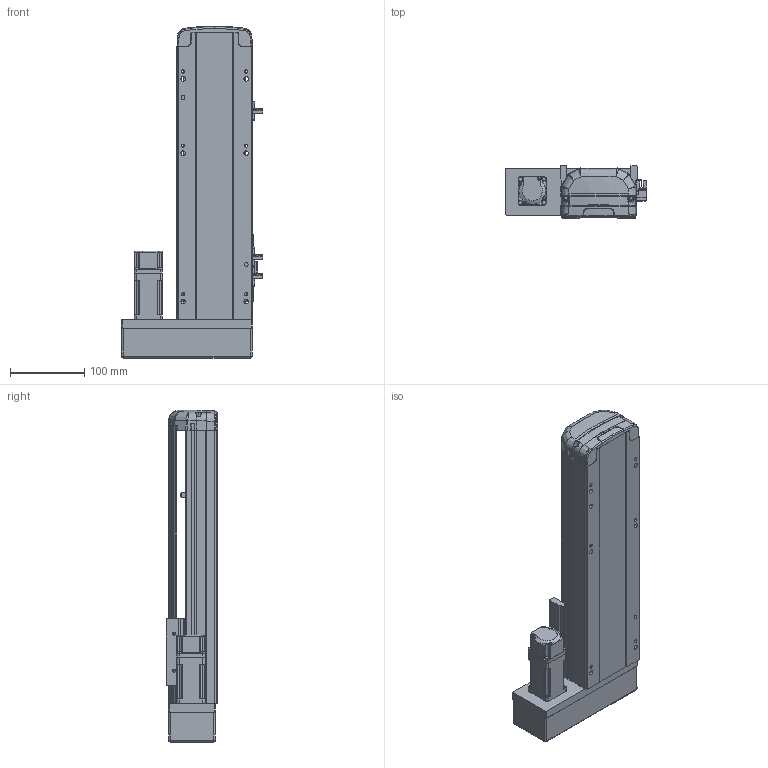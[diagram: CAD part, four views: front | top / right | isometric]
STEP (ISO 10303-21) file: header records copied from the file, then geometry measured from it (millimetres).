
FILE_DESCRIPTION (( 'STEP AP214' ), '1' );
FILE_NAME ('RTH10-XX-200-L-M10-C4.STEP', '2025-10-25T05:32:35', ( 'Microsoft' ), ( 'Microsoft' ), 'SwSTEP 2.0', 'SolidWorks 2018', '' );
FILE_SCHEMA (( 'AUTOMOTIVE_DESIGN' ));
Length unit declared in the file: millimetre
Products named in the file (10): N_RTH13-L-012覜茼え俋离^RTH10-XX-XX-L-M10-C4; N_RTH12-GY-001P^RTH10-XX-XX-L-M10-C4; N_RTH12-GY-004-賑釱^RTH10-XX-XX-L-M10-C4; N_RTH12-L-018-裔赽^RTH10-XX-XX-L-M10-C4; N_RTH12-M-011P-臏倰第菁釱^RTH10-XX-XX-L-M10-C4; N_OMRON EE-SX672 传感器^RTH10-XX-XX-L-M10-C4; N_RTH12-L-008萇儂啣^RTH10-XX-XX-L-M10-C4; RTH10-XX-200-L-M10-C4; N_P10^RTH10-XX-XX-L-M10-C4; N_RTH12-M-007P-奻裔^RTH10-XX-XX-L-M10-C4
Assembly tree (11 placements, depth 2):
  RTH10-XX-200-L-M10-C4
    N_RTH12-M-011P-臏倰第菁釱^RTH10-XX-XX-L-M10-C4
    N_RTH13-L-012覜茼え俋离^RTH10-XX-XX-L-M10-C4
    N_OMRON EE-SX672 传感器^RTH10-XX-XX-L-M10-C4  x3
    N_P10^RTH10-XX-XX-L-M10-C4
    N_RTH12-M-007P-奻裔^RTH10-XX-XX-L-M10-C4
    N_RTH12-L-008萇儂啣^RTH10-XX-XX-L-M10-C4
    N_RTH12-L-018-裔赽^RTH10-XX-XX-L-M10-C4
    N_RTH12-GY-004-賑釱^RTH10-XX-XX-L-M10-C4
    N_RTH12-GY-001P^RTH10-XX-XX-L-M10-C4
Bounding box: 190 x 70 x 447.31 mm (x, y, z)
Volume: 2279280 mm3; surface area: 368574.1 mm2
Topology: 10 solids, 12 shells, 1880 faces, 5224 edges, 3425 vertices
Faces by surface type: plane 939, bspline 472, cylinder 434, cone 29, sphere 4, torus 2
Entity records: 56104 total; most frequent: CARTESIAN_POINT 22649, ORIENTED_EDGE 7520, DIRECTION 5706, EDGE_CURVE 3766, VERTEX_POINT 2469, LINE 1990, VECTOR 1990, AXIS2_PLACEMENT_3D 1858
